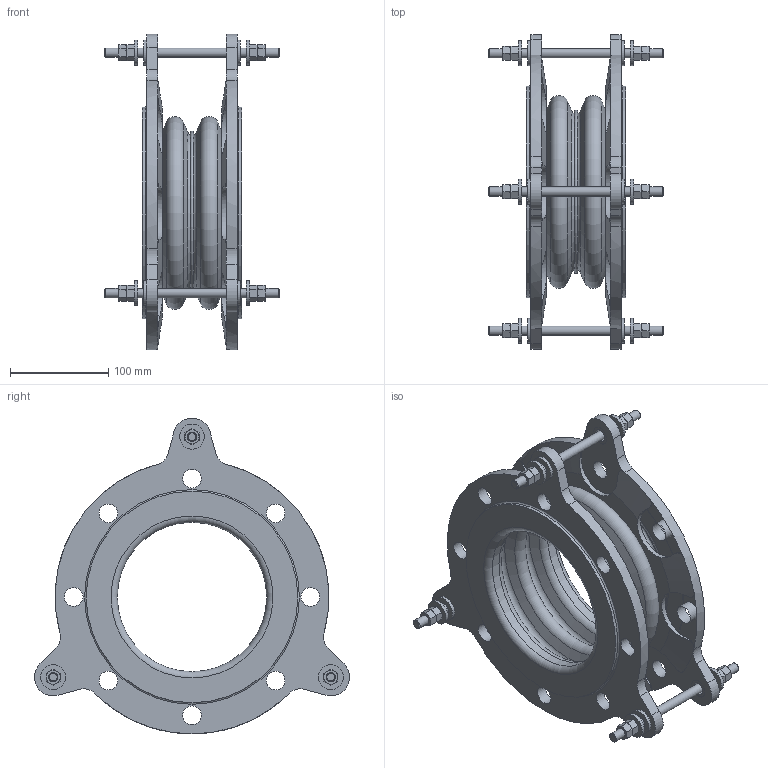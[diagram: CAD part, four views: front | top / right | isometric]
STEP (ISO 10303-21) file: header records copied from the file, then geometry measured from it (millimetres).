
FILE_DESCRIPTION(/* description */ (''),/* implementation_level */ '2;1');
FILE_NAME(/* name */ 'C:\Users\rramoutar\Desktop\802\802 6IDx4FF.stp',/* time_stamp */ '2016-04-24T11:59:58-04:00',/* author */ ('rramoutar'),/* organization */ ('Mason Industries Inc.'),/* preprocessor_version */ 'ST-DEVELOPER v15.6',/* originating_system */ 'Autodesk Inventor 2015',/* authorisation */ '');
FILE_SCHEMA (('CONFIG_CONTROL_DESIGN'));
Length unit declared in the file: inch
Products named in the file (1): 802 6IDx4FF
Bounding box: 177.8 x 321.17 x 322.19 mm (x, y, z)
Volume: 1595563.6 mm3; surface area: 436299.8 mm2
Topology: 5 solids, 5 shells, 524 faces, 1161 edges, 693 vertices
Faces by surface type: plane 188, cone 174, cylinder 141, torus 21
Full cylindrical faces by diameter (mm): 9.525 x9, 11.112 x6, 13.097 x6, 18.653 x6, 19.05 x22, 25.4 x12, 152.4 x2, 158.75 x2, 160.337 x2, 215.9 x2
Entity records: 14640 total; most frequent: CARTESIAN_POINT 3640, DIRECTION 2158, ORIENTED_EDGE 2104, EDGE_CURVE 1052, AXIS2_PLACEMENT_3D 965, EDGE_LOOP 721, VERTEX_POINT 687, FACE_OUTER_BOUND 524
